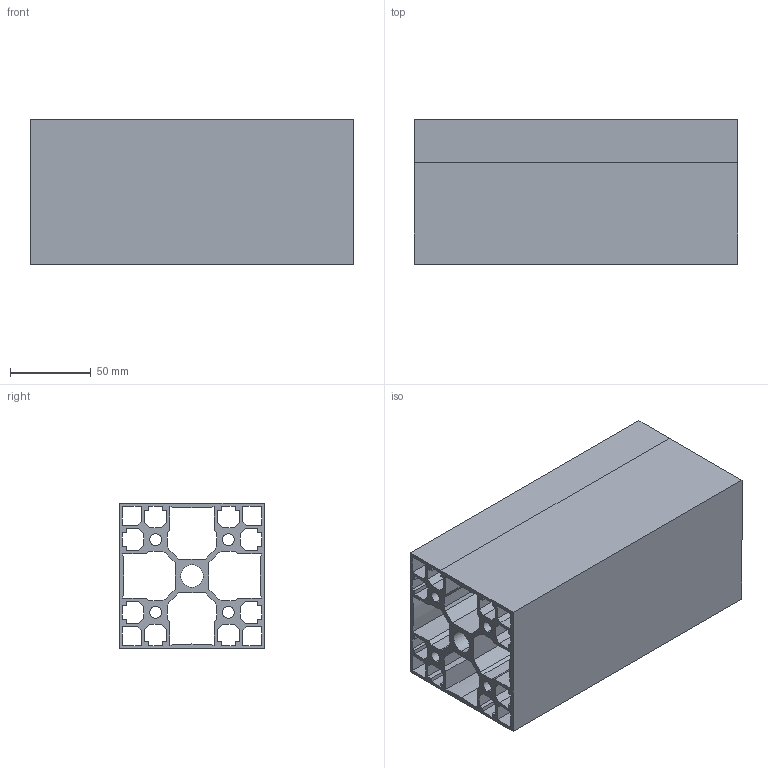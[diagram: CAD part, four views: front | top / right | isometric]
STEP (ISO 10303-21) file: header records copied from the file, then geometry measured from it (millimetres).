
FILE_DESCRIPTION (( 'STEP AP203' ), '1' );
FILE_NAME ('1.01.02.0044-profilo-alluminio-3D-90x45C-Milper.STEP', '2019-05-13T11:29:34', ( '' ), ( '' ), 'SwSTEP 2.0', 'SolidWorks 2019', '' );
FILE_SCHEMA (( 'CONFIG_CONTROL_DESIGN' ));
Length unit declared in the file: millimetre
Products named in the file (1): 1.01.02.0044-profilo-alluminio-3D-90x45C-Milper
Bounding box: 200 x 90 x 90 mm (x, y, z)
Volume: 491225.3 mm3; surface area: 313370.9 mm2
Topology: 1 solids, 1 shells, 173 faces, 513 edges, 342 vertices
Faces by surface type: plane 158, cylinder 15
Entity records: 5858 total; most frequent: CARTESIAN_POINT 1029, ORIENTED_EDGE 1026, DIRECTION 891, EDGE_CURVE 513, LINE 483, VECTOR 483, VERTEX_POINT 342, EDGE_LOOP 215
